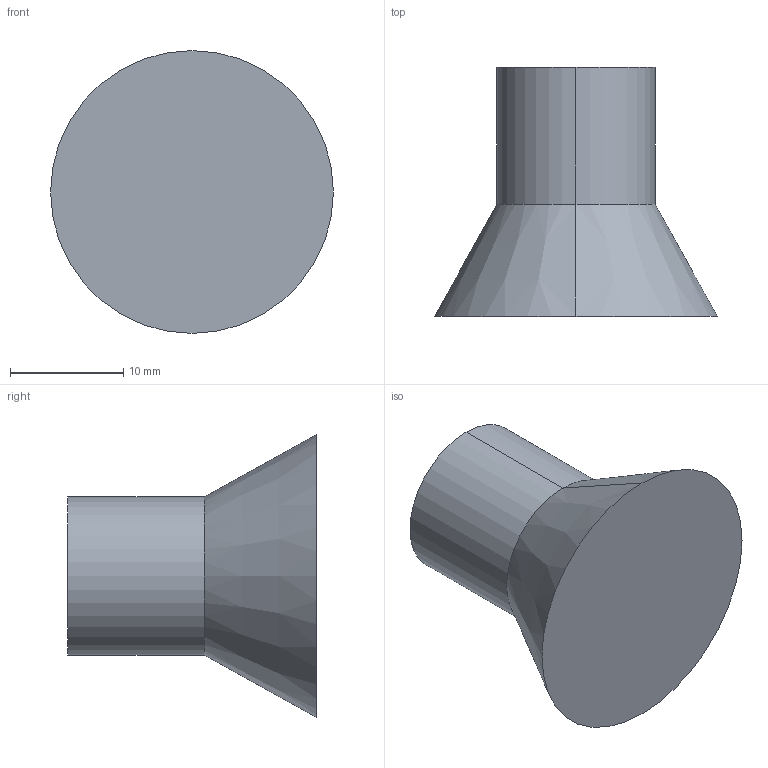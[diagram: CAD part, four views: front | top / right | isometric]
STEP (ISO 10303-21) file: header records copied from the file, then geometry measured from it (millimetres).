
FILE_DESCRIPTION( ( '' ), '1' );
FILE_NAME( 'C:/Documents and Settings/Nikhil/Desktop/Nik/Done/9070740.stp', '2013-10-24T04:10:54', ( '' ), ( '' ), ' ', ' ', ' ' );
FILE_SCHEMA( ( 'automotive_design' ) );
Length unit declared in the file: millimetre
Products named in the file (1): 1
Bounding box: 25 x 22 x 25 mm (x, y, z)
Volume: 4760.2 mm3; surface area: 1980.7 mm2
Topology: 1 solids, 1 shells, 9 faces, 16 edges, 10 vertices
Faces by surface type: cylinder 4, plane 3, cone 2
Entity records: 450 total; most frequent: DIRECTION 46, STYLED_ITEM 36, PRESENTATION_STYLE_ASSIGNMENT 36, CARTESIAN_POINT 36, COLOUR_RGB 36, ORIENTED_EDGE 32, AXIS2_PLACEMENT_3D 20, EDGE_CURVE 16
